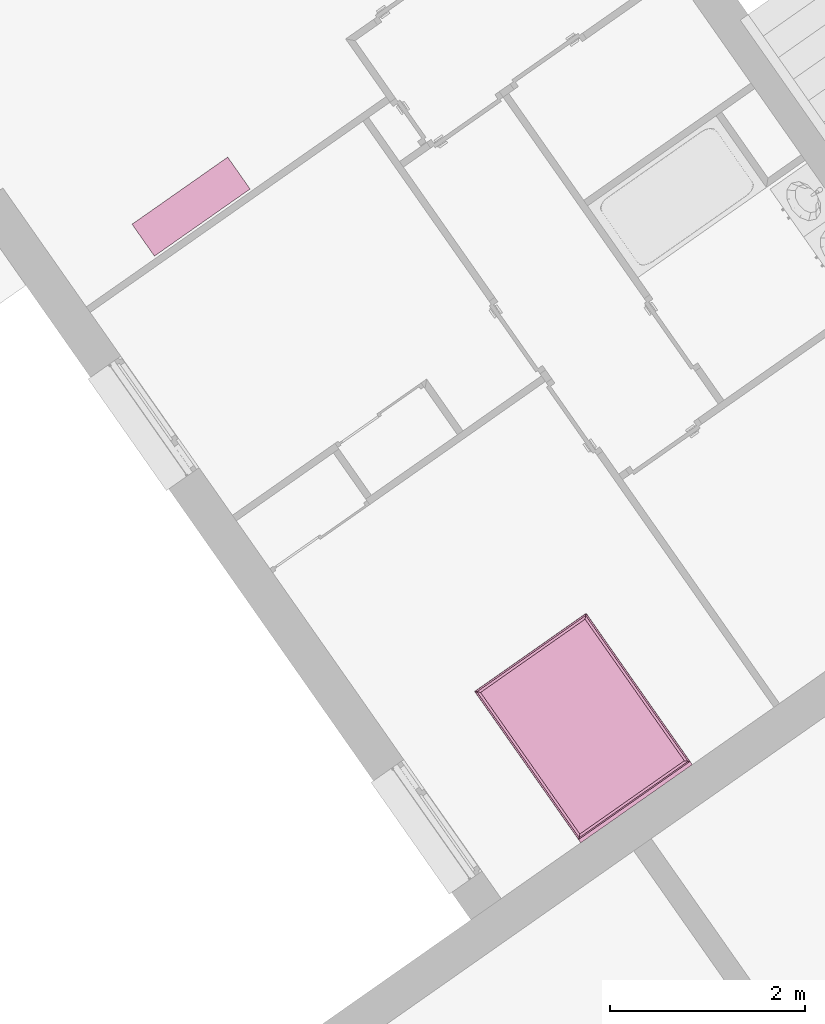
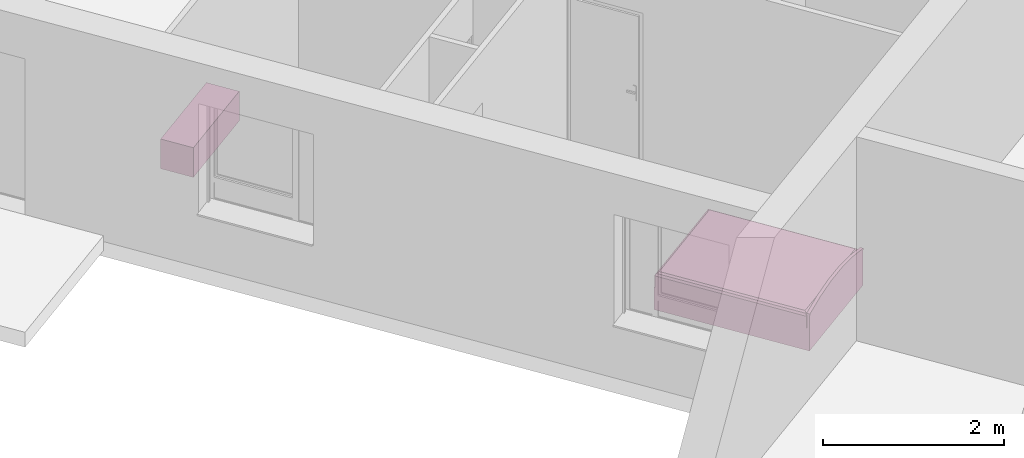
# One storey, part 153 of 195: 2 furnishings.
"""IFC2X3 building model written with IfcOpenShell, lengths in metres."""

from ifc_helpers import new_model, entity, si_unit, converted_unit, derived_unit, money_unit, direction, frame, origin_with_axes, place, context, subcontext, project, spatial, open_shell, faceted_brep, surface_model, source, transform, mapped, type_object, element, save


model = new_model("IFC2X3")

# Units and contexts
model_context = context("Model", 3, precision=1e-05, world=origin_with_axes(), true_north=direction((0.0, 1.0)))
body_context = subcontext(model_context, "Body", "Model", "MODEL_VIEW")
ifc_project = project(units=[si_unit("LENGTHUNIT", "METRE"), si_unit("AREAUNIT", "SQUARE_METRE"), si_unit("VOLUMEUNIT", "CUBIC_METRE"), converted_unit("PLANEANGLEUNIT", "DEGREE", entity("IfcPlaneAngleMeasure", 0.0174532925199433), si_unit("PLANEANGLEUNIT", "RADIAN"), dimensions=[0, 0, 0, 0, 0, 0, 0]), money_unit("CHF"), converted_unit("TIMEUNIT", "Year", entity("IfcTimeMeasure", 31557600.0), si_unit("TIMEUNIT", "SECOND"), dimensions=[0, 0, 1, 0, 0, 0, 0]), si_unit("MASSUNIT", "GRAM", prefix="KILO"), si_unit("THERMODYNAMICTEMPERATUREUNIT", "DEGREE_CELSIUS"), si_unit("LUMINOUSINTENSITYUNIT", "LUMEN"), si_unit("ENERGYUNIT", "JOULE", prefix="MEGA"), derived_unit("THERMALCONDUCTANCEUNIT", [(si_unit("POWERUNIT", "WATT"), 1), (si_unit("LENGTHUNIT", "METRE"), -1), (si_unit("THERMODYNAMICTEMPERATUREUNIT", "KELVIN"), -1)]), derived_unit("SPECIFICHEATCAPACITYUNIT", [(si_unit("ENERGYUNIT", "JOULE"), 1), (si_unit("MASSUNIT", "GRAM", prefix="KILO"), -1), (si_unit("THERMODYNAMICTEMPERATUREUNIT", "KELVIN"), -1)]), derived_unit("MASSDENSITYUNIT", [(si_unit("MASSUNIT", "GRAM", prefix="KILO"), 1), (si_unit("VOLUMEUNIT", "CUBIC_METRE"), -1)])], contexts=[model_context])

# Site, building, storey
site_placement = place(None, origin_with_axes())
site = spatial("IfcSite", under=ifc_project, at=site_placement, Name="Site", CompositionType="ELEMENT")
building_placement = place(site_placement, origin_with_axes())
building = spatial("IfcBuilding", under=site, at=building_placement, Name="Bâtiment", CompositionType="ELEMENT")
storey_placement = place(building_placement, origin_with_axes())
storey = spatial("IfcBuildingStorey", under=building, at=storey_placement, Name="rdc", CompositionType="ELEMENT", Elevation=0.0)

# Furnishings
furnishing_element_type_1 = type_object("IfcFurnishingElementType", Name="Meuble à plans 27")
shared_shape_1 = source(origin_with_axes(), body_context, "Body", "SurfaceModel", [
    surface_model("IfcShellBasedSurfaceModel", [(1.18, 0.02, 0.0), (0.02, 0.02, 0.0), (0.02, 0.4, 0.0), (1.18, 0.4, 0.0)], [open_shell([[[0, 1, 2, 3]]])]),
    faceted_brep([(0.0, 0.4, 0.0), (1.2, 0.4, 0.0), (1.2, 0.0, 0.0), (0.0, 0.0, 0.0), (0.0, 0.4, 0.4), (1.2, 0.4, 0.4), (0.02, 0.4, 0.01999999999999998), (1.18, 0.4, 0.01999999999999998), (1.18, 0.4, 0.38), (0.02, 0.4, 0.38), (1.2, 0.0, 0.4), (0.0, 0.0, 0.4), (0.02, 0.0, 0.02), (0.02, 0.0, 0.38), (1.18, 0.0, 0.38), (1.18, 0.0, 0.02)], [[[0, 1, 2, 3]], [[0, 4, 5, 1], [6, 7, 8, 9]], [[1, 5, 10, 2]], [[3, 2, 10, 11], [12, 13, 14, 15]], [[4, 0, 3, 11]], [[5, 4, 11, 10]], [[7, 6, 12, 15]], [[8, 7, 15, 14]], [[9, 8, 14, 13]], [[6, 9, 13, 12]]]),
    faceted_brep([(1.18, 0.4, 0.01999999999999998), (0.02, 0.4, 0.01999999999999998), (0.02, 0.4, 0.38), (1.18, 0.4, 0.38), (1.18, 0.38, 0.01999999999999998), (0.02, 0.38, 0.01999999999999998), (0.02, 0.3800000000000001, 0.38), (1.18, 0.3800000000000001, 0.38)], [[[0, 1, 2, 3]], [[1, 0, 4, 5]], [[2, 1, 5, 6]], [[3, 2, 6, 7]], [[0, 3, 7, 4]], [[5, 4, 7, 6]]]),
    faceted_brep([(1.18, 0.0, 0.02), (0.02, 0.0, 0.02), (0.02, 0.38, 0.02), (1.18, 0.38, 0.02), (1.18, 0.0, 0.3750000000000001), (0.02, 0.0, 0.3750000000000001), (0.02, 0.38, 0.3750000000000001), (1.18, 0.38, 0.3750000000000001)], [[[0, 1, 2, 3]], [[1, 0, 4, 5]], [[2, 1, 5, 6]], [[3, 2, 6, 7]], [[0, 3, 7, 4]], [[5, 4, 7, 6]]]),
])
furnishing_1_placement = place(storey_placement, frame((9548.295171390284, -1058.184478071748, 57.92018680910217), z_axis=(0.0, 0.0, 1.0), x_axis=(-0.8187432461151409, -0.574159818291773, 0.0)))
element("IfcFurnishingElement", 1, at=furnishing_1_placement, inside=storey, type_object=furnishing_element_type_1, Name="Obj.-376", context=body_context, shape_type="MappedRepresentation", body=[
    mapped(shared_shape_1, transform((0.0, 0.0, 0.0))),
])
furnishing_element_type_2 = type_object("IfcFurnishingElementType", Name="Lit double 01")
shared_shape_2 = source(origin_with_axes(), body_context, "Body", "Brep", [
    faceted_brep([(0.0, 1.895, 0.0), (0.0, 1.865, 0.0), (-1.4, 1.865, 0.0), (-1.4, 1.895, 0.0), (0.0, 1.895, 0.48), (0.0, 1.865, 0.48), (-0.276362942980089, 1.865, 0.5438448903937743), (-0.558179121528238, 1.865, 0.5759741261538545), (-0.8418208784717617, 1.865, 0.5759741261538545), (-1.123637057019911, 1.865, 0.5438448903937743), (-1.4, 1.865, 0.48), (-1.4, 1.865, 0.4799), (-1.4, 1.895, 0.4799), (-1.4, 1.895, 0.48), (-1.123637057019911, 1.895, 0.5438448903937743), (-0.8418208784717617, 1.895, 0.5759741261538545), (-0.558179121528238, 1.895, 0.5759741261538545), (-0.276362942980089, 1.895, 0.5438448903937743)], [[[0, 1, 2, 3]], [[4, 5, 1, 0]], [[1, 5, 6, 7, 8, 9, 10, 11, 2]], [[3, 2, 11, 12]], [[0, 3, 12, 13, 14, 15, 16, 17, 4]], [[17, 6, 5, 4]], [[16, 7, 6, 17]], [[15, 8, 7, 16]], [[14, 9, 8, 15]], [[13, 10, 9, 14]], [[12, 11, 10, 13]]]),
    faceted_brep([(-1.4, 1.9, 0.48), (-1.4, 1.86, 0.48), (-1.399999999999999, 1.86, 0.4999999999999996), (-1.399999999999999, 1.9, 0.4999999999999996), (-1.123637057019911, 1.9, 0.5438448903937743), (-1.123637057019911, 1.86, 0.5438448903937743), (-0.8418208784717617, 1.86, 0.5759741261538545), (-0.558179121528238, 1.86, 0.5759741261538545), (-0.276362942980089, 1.86, 0.5438448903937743), (0.0, 1.86, 0.48), (0.0, 1.86, 0.4999), (0.0, 1.86, 0.5), (-0.276362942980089, 1.86, 0.5638448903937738), (-0.5581791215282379, 1.86, 0.5959741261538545), (-0.8418208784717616, 1.86, 0.5959741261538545), (-1.123637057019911, 1.86, 0.5638448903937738), (-1.123637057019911, 1.9, 0.5638448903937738), (-0.8418208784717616, 1.9, 0.5959741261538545), (-0.5581791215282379, 1.9, 0.5959741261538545), (-0.276362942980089, 1.9, 0.5638448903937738), (0.0, 1.9, 0.5), (0.0, 1.9, 0.4999), (0.0, 1.9, 0.48), (-0.276362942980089, 1.9, 0.5438448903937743), (-0.558179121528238, 1.9, 0.5759741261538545), (-0.8418208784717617, 1.9, 0.5759741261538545)], [[[0, 1, 2, 3]], [[4, 5, 1, 0]], [[1, 5, 6, 7, 8, 9, 10, 11, 12, 13, 14, 15, 2]], [[3, 2, 15, 16]], [[0, 3, 16, 17, 18, 19, 20, 21, 22, 23, 24, 25, 4]], [[25, 6, 5, 4]], [[24, 7, 6, 25]], [[23, 8, 7, 24]], [[22, 9, 8, 23]], [[21, 10, 9, 22]], [[20, 11, 10, 21]], [[19, 12, 11, 20]], [[18, 13, 12, 19]], [[17, 14, 13, 18]], [[16, 15, 14, 17]]]),
    faceted_brep([(-1.4, 0.0, 0.0), (-1.4, 1.865, 0.0), (0.0, 1.865, 0.0), (0.0, 0.0, 0.0), (-1.4, 0.0, 0.3), (-1.4, 1.865, 0.3), (0.0, 1.865, 0.3), (0.0, 0.0, 0.3)], [[[0, 1, 2, 3]], [[0, 4, 5, 1]], [[1, 5, 6, 2]], [[2, 6, 7, 3]], [[3, 7, 4, 0]], [[7, 6, 5, 4]]]),
    faceted_brep([(0.0, 0.02, 0.43), (-0.002679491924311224, 0.01, 0.43), (-0.009999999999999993, 0.002679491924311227, 0.43), (-0.01999999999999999, 0.0, 0.43), (-1.38, 0.0, 0.43), (-1.39, 0.002679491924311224, 0.43), (-1.397320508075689, 0.009999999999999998, 0.43), (-1.4, 0.02, 0.43), (-1.4, 1.845, 0.43), (-1.397320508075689, 1.855, 0.43), (-1.39, 1.862320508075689, 0.43), (-1.38, 1.865, 0.43), (-0.02, 1.865, 0.43), (-0.009999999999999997, 1.862320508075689, 0.43), (-0.002679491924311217, 1.855, 0.43), (0.0, 1.845, 0.43), (3.895163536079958e-10, 0.02000000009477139, 0.44), (-0.002679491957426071, 0.0100000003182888, 0.44), (-0.0100000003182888, 0.002679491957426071, 0.44), (-0.02000000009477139, -3.895163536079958e-10, 0.44), (-1.380000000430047, -3.895163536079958e-10, 0.44), (-1.39000000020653, 0.002679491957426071, 0.44), (-1.39732050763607, 0.0100000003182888, 0.44), (-1.399999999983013, 0.02000000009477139, 0.44), (-1.399999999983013, 1.845000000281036, 0.44), (-1.39732050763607, 1.855000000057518, 0.44), (-1.39000000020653, 1.862320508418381, 0.44), (-1.380000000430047, 1.864999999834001, 0.44), (-0.02000000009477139, 1.864999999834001, 0.44), (-0.0100000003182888, 1.862320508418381, 0.44), (-0.002679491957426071, 1.855000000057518, 0.44), (3.895163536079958e-10, 1.845000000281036, 0.44), (-0.002044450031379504, 0.02026915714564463, 0.4555291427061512), (-0.004512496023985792, 0.01105828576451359, 0.4555291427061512), (-0.01105828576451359, 0.004512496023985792, 0.4555291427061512), (-0.02026915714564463, 0.002044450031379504, 0.4555291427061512), (-1.379730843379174, 0.002044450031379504, 0.4555291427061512), (-1.388941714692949, 0.004512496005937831, 0.4555291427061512), (-1.395487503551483, 0.01105828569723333, 0.4555291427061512), (-1.397955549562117, 0.02026915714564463, 0.4555291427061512), (-1.397955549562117, 1.844730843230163, 0.4555291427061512), (-1.395487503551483, 1.853941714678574, 0.4555291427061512), (-1.388941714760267, 1.860487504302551, 0.4555291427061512), (-1.379730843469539, 1.862955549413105, 0.4555291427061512), (-0.02026915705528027, 1.862955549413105, 0.4555291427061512), (-0.01105828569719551, 1.860487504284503, 0.4555291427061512), (-0.004512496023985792, 1.853941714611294, 0.4555291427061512), (-0.002044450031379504, 1.844730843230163, 0.4555291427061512), (-0.01757359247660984, 0.02231360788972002, 0.4824264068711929), (-0.01843554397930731, 0.01909676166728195, 0.4824264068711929), (-0.01909676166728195, 0.01843554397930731, 0.4824264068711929), (-0.02231360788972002, 0.01757359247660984, 0.4824264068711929), (-1.377686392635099, 0.01757359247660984, 0.4824264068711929), (-1.380903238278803, 0.01843554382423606, 0.4824264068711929), (-1.381564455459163, 0.01909676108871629, 0.4824264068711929), (-1.382426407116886, 0.02231360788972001, 0.4824264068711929), (-1.382426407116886, 1.842686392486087, 0.4824264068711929), (-1.381564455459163, 1.845903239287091, 0.4824264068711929), (-1.380903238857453, 1.846564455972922, 0.4824264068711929), (-1.377686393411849, 1.847426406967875, 0.4824264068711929), (-0.02231360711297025, 1.847426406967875, 0.4824264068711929), (-0.01909676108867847, 1.846564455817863, 0.4824264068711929), (-0.01843554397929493, 1.845903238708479, 0.4824264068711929), (-0.01757359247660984, 1.842686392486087, 0.4824264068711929), (-0.02303225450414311, 0.02303225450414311, 0.4855779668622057), (-0.02000000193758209, 0.02000000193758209, 0.4834338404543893), (-0.04447085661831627, 0.04447085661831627, 0.4979555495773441), (-1.35552914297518, 0.04447085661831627, 0.4979555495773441), (-1.376967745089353, 0.02303225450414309, 0.4855779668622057), (-1.379999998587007, 0.02000000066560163, 0.4834338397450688), (-1.35552914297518, 1.820529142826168, 0.4979555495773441), (-1.376967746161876, 1.841967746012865, 0.4855779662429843), (-1.380000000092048, 1.845000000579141, 0.4834338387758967), (-0.04447085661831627, 1.820529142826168, 0.4979555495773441), (-0.02303225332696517, 1.841967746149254, 0.48557796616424), (-0.02000000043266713, 1.844999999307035, 0.4834338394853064), (-0.05999999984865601, 0.05999999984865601, 0.5000000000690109), (-1.33999999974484, 0.05999999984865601, 0.5000000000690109), (-1.33999999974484, 1.804999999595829, 0.5000000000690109), (-0.05999999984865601, 1.804999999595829, 0.5000000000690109)], [[[0, 1, 2, 3, 4, 5, 6, 7, 8, 9, 10, 11, 12, 13, 14, 15]], [[0, 16, 17, 1]], [[1, 17, 18, 2]], [[2, 18, 19, 3]], [[3, 19, 20, 4]], [[4, 20, 21, 5]], [[5, 21, 22, 6]], [[6, 22, 23, 7]], [[7, 23, 24, 8]], [[8, 24, 25, 9]], [[9, 25, 26, 10]], [[10, 26, 27, 11]], [[11, 27, 28, 12]], [[12, 28, 29, 13]], [[13, 29, 30, 14]], [[14, 30, 31, 15]], [[15, 31, 16, 0]], [[16, 32, 33, 17]], [[17, 33, 34, 18]], [[18, 34, 35, 19]], [[19, 35, 36, 20]], [[20, 36, 37, 21]], [[21, 37, 38, 22]], [[22, 38, 39, 23]], [[23, 39, 40, 24]], [[24, 40, 41, 25]], [[25, 41, 42, 26]], [[26, 42, 43, 27]], [[27, 43, 44, 28]], [[28, 44, 45, 29]], [[29, 45, 46, 30]], [[30, 46, 47, 31]], [[31, 47, 32, 16]], [[32, 48, 49, 33]], [[33, 49, 50, 34]], [[34, 50, 51, 35]], [[35, 51, 52, 36]], [[36, 52, 53, 37]], [[37, 53, 54, 38]], [[38, 54, 55, 39]], [[39, 55, 56, 40]], [[40, 56, 57, 41]], [[41, 57, 58, 42]], [[42, 58, 59, 43]], [[43, 59, 60, 44]], [[44, 60, 61, 45]], [[45, 61, 62, 46]], [[46, 62, 63, 47]], [[47, 63, 48, 32]], [[48, 64, 65, 49]], [[49, 65, 50]], [[50, 65, 64, 51]], [[51, 64, 66, 67, 68, 52]], [[52, 68, 69, 53]], [[53, 69, 54]], [[54, 69, 68, 55]], [[55, 68, 67, 70, 71, 56]], [[56, 71, 72, 57]], [[57, 72, 58]], [[58, 72, 71, 59]], [[59, 71, 70, 73, 74, 60]], [[60, 74, 75, 61]], [[61, 75, 62]], [[62, 75, 74, 63]], [[63, 74, 73, 66, 64, 48]], [[66, 76, 77, 67]], [[67, 77, 78, 70]], [[70, 78, 79, 73]], [[73, 79, 76, 66]], [[78, 77, 76, 79]]]),
    faceted_brep([(-1.39000000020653, 0.002679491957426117, 0.2999999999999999), (-1.39, 0.002679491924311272, 0.3099999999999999), (-1.397320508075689, 0.01000000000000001, 0.3099999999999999), (-1.39732050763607, 0.01000000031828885, 0.2999999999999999), (-1.380000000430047, -3.895163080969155e-10, 0.2999999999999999), (-1.38, 0.0, 0.3099999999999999), (-1.4, 0.02000000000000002, 0.3099999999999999), (-0.02000000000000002, 0.0, 0.3099999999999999), (-0.01000000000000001, 0.002679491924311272, 0.3099999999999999), (-0.002679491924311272, 0.01000000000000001, 0.3099999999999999), (0.0, 0.02000000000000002, 0.3099999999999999), (0.0, 1.845, 0.3099999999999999), (-0.002679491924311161, 1.855, 0.3099999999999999), (-0.01000000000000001, 1.862320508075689, 0.3099999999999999), (-0.02000000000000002, 1.865, 0.3099999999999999), (-1.38, 1.865, 0.3099999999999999), (-1.39, 1.862320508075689, 0.3099999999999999), (-1.397320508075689, 1.855, 0.3099999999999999), (-1.4, 1.845, 0.3099999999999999), (-1.399999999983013, 0.02000000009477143, 0.2999999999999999), (-1.399999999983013, 1.845000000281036, 0.2999999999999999), (-1.39732050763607, 1.855000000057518, 0.2999999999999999), (-1.39000000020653, 1.862320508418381, 0.2999999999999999), (-1.380000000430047, 1.864999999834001, 0.2999999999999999), (-0.02000000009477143, 1.864999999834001, 0.2999999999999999), (-0.01000000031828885, 1.862320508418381, 0.2999999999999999), (-0.002679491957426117, 1.855000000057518, 0.2999999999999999), (3.895163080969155e-10, 1.845000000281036, 0.2999999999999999), (3.895163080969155e-10, 0.02000000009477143, 0.2999999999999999), (-0.002679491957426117, 0.01000000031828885, 0.2999999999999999), (-0.01000000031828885, 0.002679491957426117, 0.2999999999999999), (-0.02000000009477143, -3.895163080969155e-10, 0.2999999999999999)], [[[0, 1, 2, 3]], [[1, 0, 4, 5]], [[6, 2, 1, 5, 7, 8, 9, 10, 11, 12, 13, 14, 15, 16, 17, 18]], [[3, 2, 6, 19]], [[3, 19, 20, 21, 22, 23, 24, 25, 26, 27, 28, 29, 30, 31, 4, 0]], [[7, 5, 4, 31]], [[30, 8, 7, 31]], [[8, 30, 29, 9]], [[9, 29, 28, 10]], [[10, 28, 27, 11]], [[26, 12, 11, 27]], [[12, 26, 25, 13]], [[25, 24, 14, 13]], [[24, 23, 15, 14]], [[22, 16, 15, 23]], [[21, 17, 16, 22]], [[17, 21, 20, 18]], [[19, 6, 18, 20]]]),
    faceted_brep([(0.0, 0.02, 0.3099999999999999), (0.0, 0.02, 0.4299999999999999), (-0.002679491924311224, 0.01, 0.4299999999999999), (-0.002679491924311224, 0.01, 0.3099999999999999), (0.0, 1.845, 0.3099999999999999), (0.0, 1.845, 0.4299999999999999), (-0.002679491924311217, 1.855, 0.4299999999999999), (-0.009999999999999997, 1.862320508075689, 0.4299999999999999), (-0.02, 1.865, 0.4299999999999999), (-1.38, 1.865, 0.4299999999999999), (-1.39, 1.862320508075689, 0.4299999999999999), (-1.397320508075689, 1.855, 0.4299999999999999), (-1.4, 1.845, 0.4299999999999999), (-1.4, 0.02, 0.4299999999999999), (-1.397320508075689, 0.009999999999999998, 0.4299999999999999), (-1.39, 0.002679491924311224, 0.4299999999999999), (-1.38, 0.0, 0.4299999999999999), (-0.01999999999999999, 0.0, 0.4299999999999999), (-0.009999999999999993, 0.002679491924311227, 0.4299999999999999), (-0.009999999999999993, 0.002679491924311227, 0.3099999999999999), (-0.01999999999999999, 0.0, 0.3099999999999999), (-1.38, 0.0, 0.3099999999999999), (-1.39, 0.002679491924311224, 0.3099999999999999), (-1.397320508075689, 0.009999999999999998, 0.3099999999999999), (-1.4, 0.02, 0.3099999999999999), (-1.4, 1.845, 0.3099999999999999), (-1.397320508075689, 1.855, 0.3099999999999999), (-1.39, 1.862320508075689, 0.3099999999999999), (-1.38, 1.865, 0.3099999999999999), (-0.02, 1.865, 0.3099999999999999), (-0.009999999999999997, 1.862320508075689, 0.3099999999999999), (-0.002679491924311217, 1.855, 0.3099999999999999)], [[[0, 1, 2, 3]], [[4, 5, 1, 0]], [[1, 5, 6, 7, 8, 9, 10, 11, 12, 13, 14, 15, 16, 17, 18, 2]], [[3, 2, 18, 19]], [[0, 3, 19, 20, 21, 22, 23, 24, 25, 26, 27, 28, 29, 30, 31, 4]], [[31, 6, 5, 4]], [[30, 7, 6, 31]], [[29, 8, 7, 30]], [[28, 9, 8, 29]], [[27, 10, 9, 28]], [[26, 11, 10, 27]], [[25, 12, 11, 26]], [[24, 13, 12, 25]], [[23, 14, 13, 24]], [[22, 15, 14, 23]], [[21, 16, 15, 22]], [[20, 17, 16, 21]], [[19, 18, 17, 20]]]),
])
furnishing_2_placement = place(storey_placement, frame((9550.830224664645, -1063.671834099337, 57.7), z_axis=(0.0, 0.0, 1.0), x_axis=(-0.8187432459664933, -0.5741598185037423, 0.0)))
element("IfcFurnishingElement", 2, at=furnishing_2_placement, inside=storey, type_object=furnishing_element_type_2, Name="Obj.-002", context=body_context, shape_type="MappedRepresentation", body=[
    mapped(shared_shape_2, transform((0.0, 0.0, 0.0))),
])

save(model, "model.ifc")
